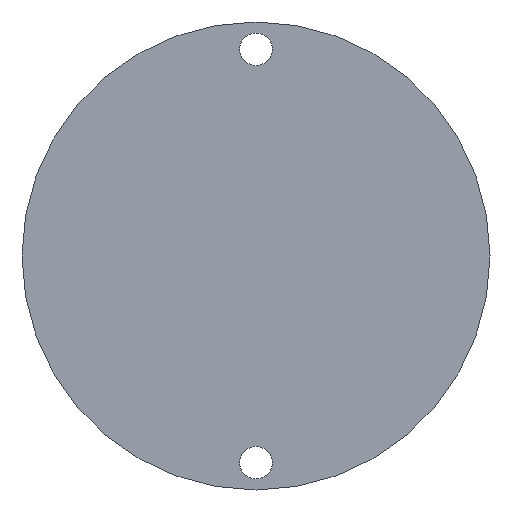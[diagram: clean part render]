
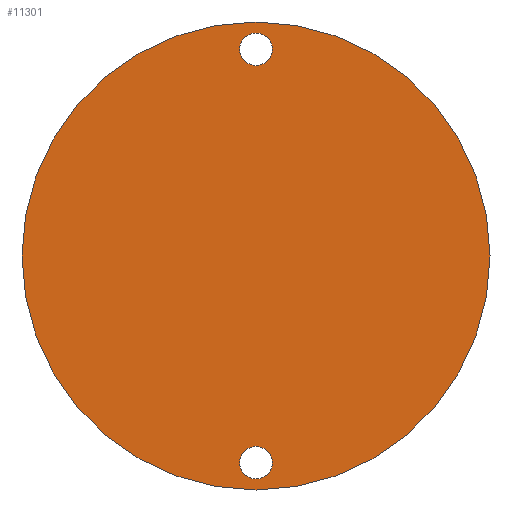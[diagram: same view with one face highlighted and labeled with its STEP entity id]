
A CAD part, front view. The second image highlights one B-rep face of the part: STEP entity #11301.
In plain terms, the highlighted planar face has unit normal (0, -1, 0).
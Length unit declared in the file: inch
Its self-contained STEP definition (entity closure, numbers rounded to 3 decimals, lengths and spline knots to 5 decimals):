
#1555 = AXIS2_PLACEMENT_3D ( 'NONE', #6682, #1758, #22089 ) ;
#1674 = DIRECTION ( 'NONE',  ( 0., 1., 0. ) ) ;
#1688 = ORIENTED_EDGE ( 'NONE', *, *, #6551, .T. ) ;
#1758 = DIRECTION ( 'NONE',  ( 0., 1., 0. ) ) ;
#3017 = CARTESIAN_POINT ( 'NONE',  ( 0., 0., 0.661 ) ) ;
#4019 = CARTESIAN_POINT ( 'NONE',  ( 0., 0., -0.81225 ) ) ;
#4107 = CIRCLE ( 'NONE', #20821, 0.0565 ) ;
#4229 = VERTEX_POINT ( 'NONE', #3017 ) ;
#5655 = VERTEX_POINT ( 'NONE', #8917 ) ;
#6551 = EDGE_CURVE ( 'NONE', #22583, #22719, #9948, .T. ) ;
#6553 = CIRCLE ( 'NONE', #14571, 0.0565 ) ;
#6653 = ORIENTED_EDGE ( 'NONE', *, *, #23591, .T. ) ;
#6682 = CARTESIAN_POINT ( 'NONE',  ( 0., 0., 0. ) ) ;
#6796 = ORIENTED_EDGE ( 'NONE', *, *, #24343, .F. ) ;
#7271 = EDGE_LOOP ( 'NONE', ( #6796, #28842 ) ) ;
#7531 = CARTESIAN_POINT ( 'NONE',  ( 0., 0., 0.81225 ) ) ;
#7928 = DIRECTION ( 'NONE',  ( 0., 0., 1. ) ) ;
#7980 = DIRECTION ( 'NONE',  ( 0., 0., 1. ) ) ;
#8763 = FACE_BOUND ( 'NONE', #11932, .T. ) ;
#8917 = CARTESIAN_POINT ( 'NONE',  ( 0., 0., 0.774 ) ) ;
#9454 = CIRCLE ( 'NONE', #18048, 0.0565 ) ;
#9948 = CIRCLE ( 'NONE', #14276, 0.0565 ) ;
#9947 = CARTESIAN_POINT ( 'NONE',  ( 0., 0., 0.7175 ) ) ;
#10181 = DIRECTION ( 'NONE',  ( 0., 1., 0. ) ) ;
#10760 = DIRECTION ( 'NONE',  ( 0., 0., 1. ) ) ;
#11132 = DIRECTION ( 'NONE',  ( 0., 1., 0. ) ) ;
#11301 = ADVANCED_FACE ( 'NONE', ( #26718, #8763, #24762 ), #15207, .F. ) ;
#11932 = EDGE_LOOP ( 'NONE', ( #6653, #25943 ) ) ;
#12474 = CARTESIAN_POINT ( 'NONE',  ( 0., 0., -0.661 ) ) ;
#12616 = CARTESIAN_POINT ( 'NONE',  ( 0., 0., -0.774 ) ) ;
#12719 = CARTESIAN_POINT ( 'NONE',  ( 0., 0., 0. ) ) ;
#13074 = DIRECTION ( 'NONE',  ( 0., 0., 1. ) ) ;
#13221 = CARTESIAN_POINT ( 'NONE',  ( 0., 0., 0.7175 ) ) ;
#13288 = CIRCLE ( 'NONE', #20958, 0.81225 ) ;
#14276 = AXIS2_PLACEMENT_3D ( 'NONE', #25699, #19135, #27941 ) ;
#14571 = AXIS2_PLACEMENT_3D ( 'NONE', #13221, #11132, #13074 ) ;
#15172 = CARTESIAN_POINT ( 'NONE',  ( 0., 0., -0.7175 ) ) ;
#15207 = PLANE ( 'NONE',  #1555 ) ;
#18048 = AXIS2_PLACEMENT_3D ( 'NONE', #15172, #24292, #7980 ) ;
#18483 = EDGE_CURVE ( 'NONE', #22719, #22583, #9454, .T. ) ;
#19135 = DIRECTION ( 'NONE',  ( 0., 1., 0. ) ) ;
#19404 = AXIS2_PLACEMENT_3D ( 'NONE', #22144, #1674, #10760 ) ;
#20092 = VERTEX_POINT ( 'NONE', #7531 ) ;
#20821 = AXIS2_PLACEMENT_3D ( 'NONE', #9947, #23431, #21183 ) ;
#20958 = AXIS2_PLACEMENT_3D ( 'NONE', #12719, #10181, #7928 ) ;
#21183 = DIRECTION ( 'NONE',  ( 0., 0., 1. ) ) ;
#22089 = DIRECTION ( 'NONE',  ( 1., 0., 0. ) ) ;
#22144 = CARTESIAN_POINT ( 'NONE',  ( 0., 0., 0. ) ) ;
#22462 = EDGE_LOOP ( 'NONE', ( #1688, #26739 ) ) ;
#22583 = VERTEX_POINT ( 'NONE', #12474 ) ;
#22719 = VERTEX_POINT ( 'NONE', #12616 ) ;
#23431 = DIRECTION ( 'NONE',  ( 0., 1., 0. ) ) ;
#23591 = EDGE_CURVE ( 'NONE', #5655, #4229, #4107, .T. ) ;
#23652 = EDGE_CURVE ( 'NONE', #4229, #5655, #6553, .T. ) ;
#24165 = CIRCLE ( 'NONE', #19404, 0.81225 ) ;
#24292 = DIRECTION ( 'NONE',  ( 0., 1., 0. ) ) ;
#24343 = EDGE_CURVE ( 'NONE', #28654, #20092, #24165, .T. ) ;
#24762 = FACE_OUTER_BOUND ( 'NONE', #7271, .T. ) ;
#25699 = CARTESIAN_POINT ( 'NONE',  ( 0., 0., -0.7175 ) ) ;
#25943 = ORIENTED_EDGE ( 'NONE', *, *, #23652, .T. ) ;
#26718 = FACE_BOUND ( 'NONE', #22462, .T. ) ;
#26739 = ORIENTED_EDGE ( 'NONE', *, *, #18483, .T. ) ;
#27941 = DIRECTION ( 'NONE',  ( 0., 0., 1. ) ) ;
#28314 = EDGE_CURVE ( 'NONE', #20092, #28654, #13288, .T. ) ;
#28654 = VERTEX_POINT ( 'NONE', #4019 ) ;
#28842 = ORIENTED_EDGE ( 'NONE', *, *, #28314, .F. ) ;
